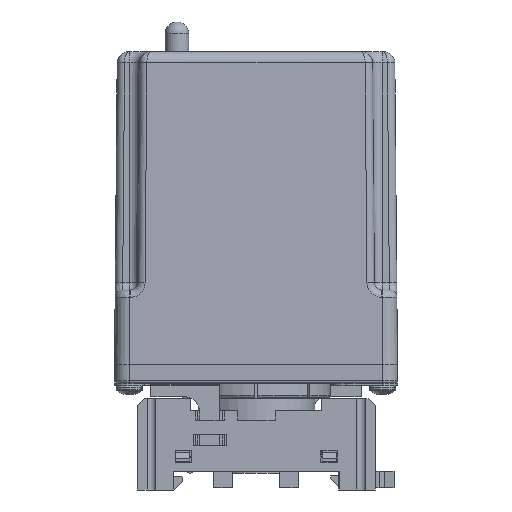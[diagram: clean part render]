
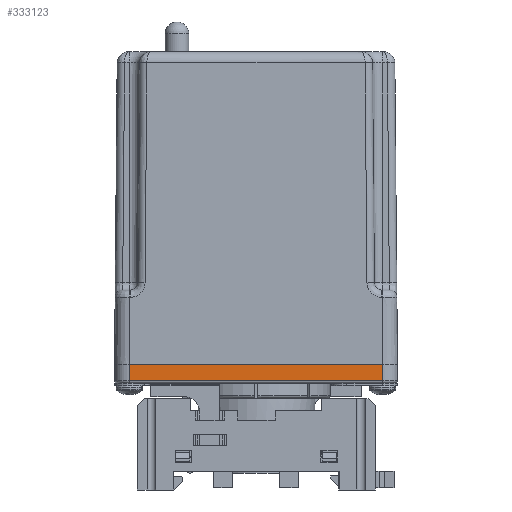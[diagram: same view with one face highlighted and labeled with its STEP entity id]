
A CAD part, front view. The second image highlights one B-rep face of the part: STEP entity #333123.
In plain terms, the highlighted planar face has unit normal (0, -1, 0).
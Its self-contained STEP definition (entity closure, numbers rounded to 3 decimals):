
#313056 = PLANE('',#313057);
#313057 = AXIS2_PLACEMENT_3D('',#313058,#313059,#313060);
#313058 = CARTESIAN_POINT('',(-4.885,41.858,26.746));
#313059 = DIRECTION('',(0.,0.,-1.));
#313060 = DIRECTION('',(0.,-1.,0.));
#320101 = VERTEX_POINT('',#320102);
#320102 = CARTESIAN_POINT('',(-1.71,-2.592,26.746));
#320121 = CYLINDRICAL_SURFACE('',#320122,3.175);
#320122 = AXIS2_PLACEMENT_3D('',#320123,#320124,#320125);
#320123 = CARTESIAN_POINT('',(-1.71,0.583,22.784));
#320124 = DIRECTION('',(0.,0.,-1.));
#320125 = DIRECTION('',(-1.,0.,0.));
#320133 = EDGE_CURVE('',#320101,#320134,#320136,.T.);
#320134 = VERTEX_POINT('',#320135);
#320135 = CARTESIAN_POINT('',(52.266,-2.592,26.746));
#320136 = SURFACE_CURVE('',#320137,(#320141,#320148),.PCURVE_S1.);
#320137 = LINE('',#320138,#320139);
#320138 = CARTESIAN_POINT('',(-4.885,-2.592,26.746));
#320139 = VECTOR('',#320140,1.);
#320140 = DIRECTION('',(1.,0.,0.));
#320141 = PCURVE('',#313056,#320142);
#320142 = DEFINITIONAL_REPRESENTATION('',(#320143),#320147);
#320143 = LINE('',#320144,#320145);
#320144 = CARTESIAN_POINT('',(44.45,0.));
#320145 = VECTOR('',#320146,1.);
#320146 = DIRECTION('',(0.,-1.));
#320147 = ( GEOMETRIC_REPRESENTATION_CONTEXT(2) 
PARAMETRIC_REPRESENTATION_CONTEXT() REPRESENTATION_CONTEXT('2D SPACE',''
  ) );
#320148 = PCURVE('',#320149,#320154);
#320149 = PLANE('',#320150);
#320150 = AXIS2_PLACEMENT_3D('',#320151,#320152,#320153);
#320151 = CARTESIAN_POINT('',(-4.885,-2.592,26.746));
#320152 = DIRECTION('',(0.,1.,0.));
#320153 = DIRECTION('',(1.,0.,0.));
#320154 = DEFINITIONAL_REPRESENTATION('',(#320155),#320159);
#320155 = LINE('',#320156,#320157);
#320156 = CARTESIAN_POINT('',(0.,0.));
#320157 = VECTOR('',#320158,1.);
#320158 = DIRECTION('',(1.,0.));
#320159 = ( GEOMETRIC_REPRESENTATION_CONTEXT(2) 
PARAMETRIC_REPRESENTATION_CONTEXT() REPRESENTATION_CONTEXT('2D SPACE',''
  ) );
#320180 = CYLINDRICAL_SURFACE('',#320181,3.175);
#320181 = AXIS2_PLACEMENT_3D('',#320182,#320183,#320184);
#320182 = CARTESIAN_POINT('',(52.266,0.583,26.746));
#320183 = DIRECTION('',(0.,0.,1.));
#320184 = DIRECTION('',(1.,0.,0.));
#328151 = CYLINDRICAL_SURFACE('',#328152,0.508);
#328152 = AXIS2_PLACEMENT_3D('',#328153,#328154,#328155);
#328153 = CARTESIAN_POINT('',(-4.885,-2.084,23.292));
#328154 = DIRECTION('',(1.,0.,0.));
#328155 = DIRECTION('',(-0.,-1.,0.));
#333123 = ADVANCED_FACE('',(#333124),#320149,.F.);
#333124 = FACE_BOUND('',#333125,.T.);
#333125 = EDGE_LOOP('',(#333126,#333149,#333172,#333193));
#333126 = ORIENTED_EDGE('',*,*,#333127,.T.);
#333127 = EDGE_CURVE('',#320101,#333128,#333130,.T.);
#333128 = VERTEX_POINT('',#333129);
#333129 = CARTESIAN_POINT('',(-1.71,-2.592,23.292));
#333130 = SURFACE_CURVE('',#333131,(#333135,#333142),.PCURVE_S1.);
#333131 = LINE('',#333132,#333133);
#333132 = CARTESIAN_POINT('',(-1.71,-2.592,22.784));
#333133 = VECTOR('',#333134,1.);
#333134 = DIRECTION('',(0.,0.,-1.));
#333135 = PCURVE('',#320149,#333136);
#333136 = DEFINITIONAL_REPRESENTATION('',(#333137),#333141);
#333137 = LINE('',#333138,#333139);
#333138 = CARTESIAN_POINT('',(3.175,3.962));
#333139 = VECTOR('',#333140,1.);
#333140 = DIRECTION('',(0.,1.));
#333141 = ( GEOMETRIC_REPRESENTATION_CONTEXT(2) 
PARAMETRIC_REPRESENTATION_CONTEXT() REPRESENTATION_CONTEXT('2D SPACE',''
  ) );
#333142 = PCURVE('',#320121,#333143);
#333143 = DEFINITIONAL_REPRESENTATION('',(#333144),#333148);
#333144 = LINE('',#333145,#333146);
#333145 = CARTESIAN_POINT('',(4.712,0.));
#333146 = VECTOR('',#333147,1.);
#333147 = DIRECTION('',(0.,1.));
#333148 = ( GEOMETRIC_REPRESENTATION_CONTEXT(2) 
PARAMETRIC_REPRESENTATION_CONTEXT() REPRESENTATION_CONTEXT('2D SPACE',''
  ) );
#333149 = ORIENTED_EDGE('',*,*,#333150,.T.);
#333150 = EDGE_CURVE('',#333128,#333151,#333153,.T.);
#333151 = VERTEX_POINT('',#333152);
#333152 = CARTESIAN_POINT('',(52.266,-2.592,23.292));
#333153 = SURFACE_CURVE('',#333154,(#333158,#333165),.PCURVE_S1.);
#333154 = LINE('',#333155,#333156);
#333155 = CARTESIAN_POINT('',(-4.885,-2.592,23.292));
#333156 = VECTOR('',#333157,1.);
#333157 = DIRECTION('',(1.,0.,0.));
#333158 = PCURVE('',#320149,#333159);
#333159 = DEFINITIONAL_REPRESENTATION('',(#333160),#333164);
#333160 = LINE('',#333161,#333162);
#333161 = CARTESIAN_POINT('',(0.,3.454));
#333162 = VECTOR('',#333163,1.);
#333163 = DIRECTION('',(1.,0.));
#333164 = ( GEOMETRIC_REPRESENTATION_CONTEXT(2) 
PARAMETRIC_REPRESENTATION_CONTEXT() REPRESENTATION_CONTEXT('2D SPACE',''
  ) );
#333165 = PCURVE('',#328151,#333166);
#333166 = DEFINITIONAL_REPRESENTATION('',(#333167),#333171);
#333167 = LINE('',#333168,#333169);
#333168 = CARTESIAN_POINT('',(0.,0.));
#333169 = VECTOR('',#333170,1.);
#333170 = DIRECTION('',(0.,1.));
#333171 = ( GEOMETRIC_REPRESENTATION_CONTEXT(2) 
PARAMETRIC_REPRESENTATION_CONTEXT() REPRESENTATION_CONTEXT('2D SPACE',''
  ) );
#333172 = ORIENTED_EDGE('',*,*,#333173,.T.);
#333173 = EDGE_CURVE('',#333151,#320134,#333174,.T.);
#333174 = SURFACE_CURVE('',#333175,(#333179,#333186),.PCURVE_S1.);
#333175 = LINE('',#333176,#333177);
#333176 = CARTESIAN_POINT('',(52.266,-2.592,26.746));
#333177 = VECTOR('',#333178,1.);
#333178 = DIRECTION('',(0.,0.,1.));
#333179 = PCURVE('',#320149,#333180);
#333180 = DEFINITIONAL_REPRESENTATION('',(#333181),#333185);
#333181 = LINE('',#333182,#333183);
#333182 = CARTESIAN_POINT('',(57.15,0.));
#333183 = VECTOR('',#333184,1.);
#333184 = DIRECTION('',(0.,-1.));
#333185 = ( GEOMETRIC_REPRESENTATION_CONTEXT(2) 
PARAMETRIC_REPRESENTATION_CONTEXT() REPRESENTATION_CONTEXT('2D SPACE',''
  ) );
#333186 = PCURVE('',#320180,#333187);
#333187 = DEFINITIONAL_REPRESENTATION('',(#333188),#333192);
#333188 = LINE('',#333189,#333190);
#333189 = CARTESIAN_POINT('',(4.712,0.));
#333190 = VECTOR('',#333191,1.);
#333191 = DIRECTION('',(0.,1.));
#333192 = ( GEOMETRIC_REPRESENTATION_CONTEXT(2) 
PARAMETRIC_REPRESENTATION_CONTEXT() REPRESENTATION_CONTEXT('2D SPACE',''
  ) );
#333193 = ORIENTED_EDGE('',*,*,#320133,.F.);
